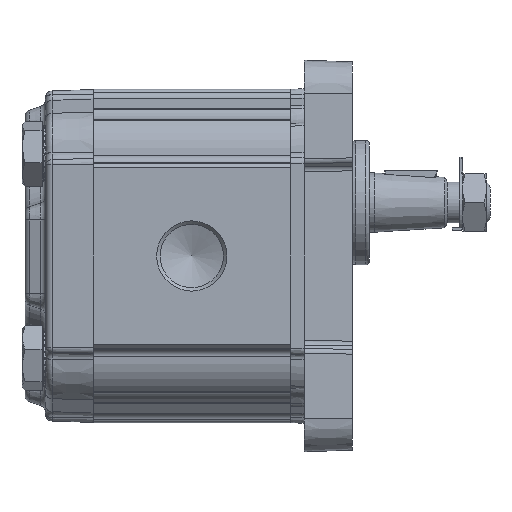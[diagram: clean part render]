
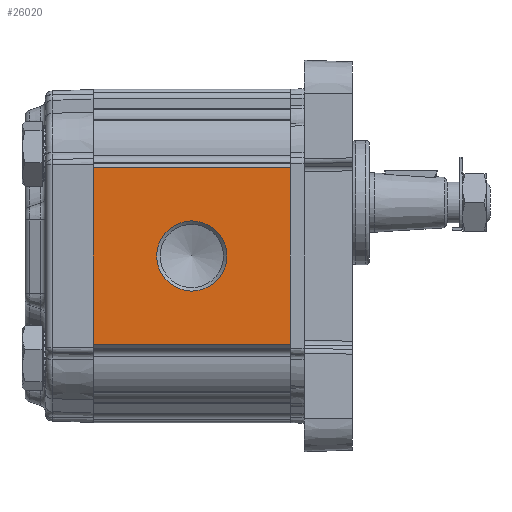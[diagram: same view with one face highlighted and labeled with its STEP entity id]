
A CAD part, left-side view. The second image highlights one B-rep face of the part: STEP entity #26020.
In plain terms, the highlighted planar face has unit normal (-1, 0, 0).
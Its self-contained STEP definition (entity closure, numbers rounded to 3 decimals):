
#984=PLANE('',#27287);
#1523=CIRCLE('',#27288,10.316);
#3577=ORIENTED_EDGE('',*,*,#9182,.T.);
#3578=ORIENTED_EDGE('',*,*,#9183,.F.);
#3579=ORIENTED_EDGE('',*,*,#9181,.F.);
#3580=ORIENTED_EDGE('',*,*,#9184,.T.);
#3581=ORIENTED_EDGE('',*,*,#9185,.T.);
#9181=EDGE_CURVE('',#12095,#12094,#13910,.T.);
#9182=EDGE_CURVE('',#12096,#12096,#1523,.F.);
#9183=EDGE_CURVE('',#12094,#12097,#13911,.T.);
#9184=EDGE_CURVE('',#12095,#12098,#13912,.T.);
#9185=EDGE_CURVE('',#12098,#12097,#13913,.T.);
#12094=VERTEX_POINT('',#36292);
#12095=VERTEX_POINT('',#36294);
#12096=VERTEX_POINT('',#36298);
#12097=VERTEX_POINT('',#36300);
#12098=VERTEX_POINT('',#36302);
#13910=LINE('',#36295,#15219);
#13911=LINE('',#36299,#15220);
#13912=LINE('',#36301,#15221);
#13913=LINE('',#36303,#15222);
#15219=VECTOR('',#30195,1000.);
#15220=VECTOR('',#30200,1000.);
#15221=VECTOR('',#30201,1000.);
#15222=VECTOR('',#30202,1000.);
#16666=EDGE_LOOP('',(#3577));
#16667=EDGE_LOOP('',(#3578,#3579,#3580,#3581));
#17883=FACE_BOUND('',#16666,.T.);
#17884=FACE_BOUND('',#16667,.T.);
#26020=ADVANCED_FACE('',(#17883,#17884),#984,.T.);
#27287=AXIS2_PLACEMENT_3D('',#36296,#30196,#30197);
#27288=AXIS2_PLACEMENT_3D('',#36297,#30198,#30199);
#30195=DIRECTION('',(0.,-1.,0.));
#30196=DIRECTION('',(-1.,0.,0.));
#30197=DIRECTION('',(0.,0.,1.));
#30198=DIRECTION('',(-1.,0.,0.));
#30199=DIRECTION('',(0.,0.,1.));
#30200=DIRECTION('',(0.,0.,-1.));
#30201=DIRECTION('',(0.,0.,-1.));
#30202=DIRECTION('',(0.,-1.,0.));
#36292=CARTESIAN_POINT('',(-45.,0.,25.912));
#36294=CARTESIAN_POINT('',(-45.,58.,25.912));
#36295=CARTESIAN_POINT('',(-45.,58.,25.912));
#36296=CARTESIAN_POINT('',(-45.,58.,25.912));
#36297=CARTESIAN_POINT('',(-45.,29.,0.));
#36298=CARTESIAN_POINT('',(-45.,29.,10.316));
#36299=CARTESIAN_POINT('',(-45.,0.,25.912));
#36300=CARTESIAN_POINT('',(-45.,0.,-25.912));
#36301=CARTESIAN_POINT('',(-45.,58.,25.912));
#36302=CARTESIAN_POINT('',(-45.,58.,-25.912));
#36303=CARTESIAN_POINT('',(-45.,58.,-25.912));
